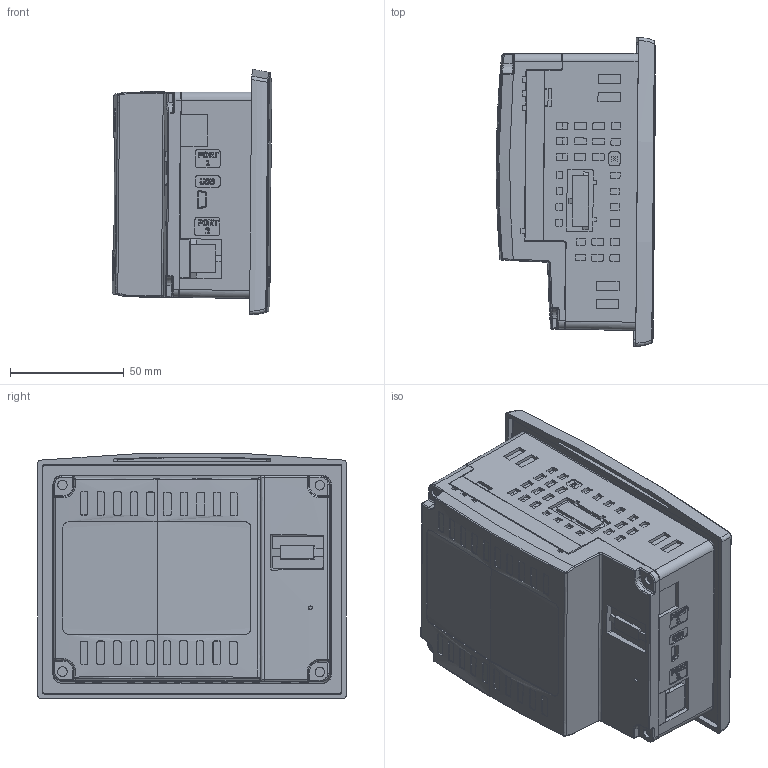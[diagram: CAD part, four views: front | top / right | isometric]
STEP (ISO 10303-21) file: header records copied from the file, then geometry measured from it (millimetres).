
FILE_DESCRIPTION (( 'STEP AP214' ), '1' );
FILE_NAME ('V430.STEP', '2014-10-21T11:42:53', ( 'dell' ), ( '' ), 'SwSTEP 2.0', 'SolidWorks 2011', '' );
FILE_SCHEMA (( 'AUTOMOTIVE_DESIGN' ));
Length unit declared in the file: millimetre
Products named in the file (1): V430
Bounding box: 70.22 x 136 x 108.02 mm (x, y, z)
Volume: 696162.4 mm3; surface area: 72633.9 mm2
Topology: 1 solids, 11 shells, 2149 faces, 5740 edges, 3770 vertices
Faces by surface type: plane 1216, cylinder 467, bspline 300, cone 145, sphere 12, torus 9
Entity records: 78375 total; most frequent: CARTESIAN_POINT 29299, ORIENTED_EDGE 11472, DIRECTION 8277, EDGE_CURVE 5736, VERTEX_POINT 3770, LINE 3545, VECTOR 3545, AXIS2_PLACEMENT_3D 2366
